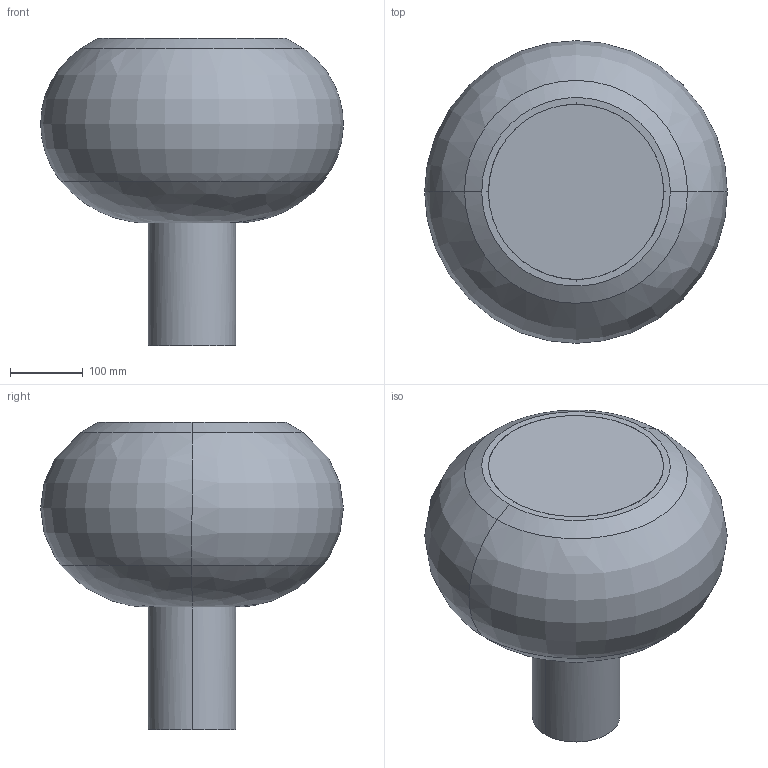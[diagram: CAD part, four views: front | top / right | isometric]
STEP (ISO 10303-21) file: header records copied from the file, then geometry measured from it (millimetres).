
FILE_DESCRIPTION(/* description */ (''),/* implementation_level */ '2;1');
FILE_NAME(/* name */ 'BUDS_2~1',/* time_stamp */ '2016-08-29T11:46:24+02:00',/* author */ (''),/* organization */ (''),/* preprocessor_version */ 'ST-DEVELOPER v15',/* originating_system */ '',/* authorisation */ '');
FILE_SCHEMA (('AUTOMOTIVE_DESIGN'));
Length unit declared in the file: millimetre
Products named in the file (1): Document
Bounding box: 415 x 415.07 x 421 mm (x, y, z)
Volume: 28360159.9 mm3; surface area: 1323781.2 mm2
Topology: 3 solids, 4 shells, 164 faces, 420 edges, 267 vertices
Faces by surface type: bspline 128, plane 36
Entity records: 9173 total; most frequent: CARTESIAN_POINT 6562, ORIENTED_EDGE 816, EDGE_CURVE 420, B_SPLINE_CURVE_WITH_KNOTS 326, VERTEX_POINT 267, EDGE_LOOP 183, ADVANCED_FACE 164, FACE_OUTER_BOUND 164
